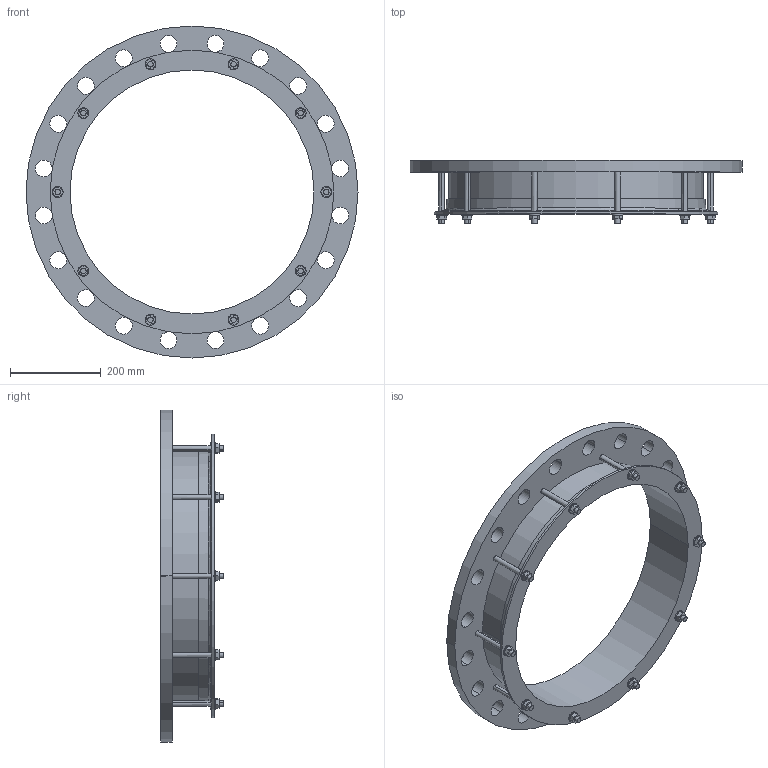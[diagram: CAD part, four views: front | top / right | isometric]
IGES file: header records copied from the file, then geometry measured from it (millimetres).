
Start section:  PTC IGES file: 532x500pn25.igs
Global section: file name: 532x500pn25.igs; native system: Creo Parametric by PTC Inc.; preprocessor: 2016130; author: mfairey; organization: Unknown; date: 20190404.114753; units: millimetre
Bounding box: 730 x 137.45 x 730 mm (x, y, z)
Surface area: 970056.4 mm2 (no closed solid volume)
Topology: 0 solids, 0 shells, 208 faces, 1096 edges, 1096 vertices
Faces by surface type: revolution 114, bspline 94
